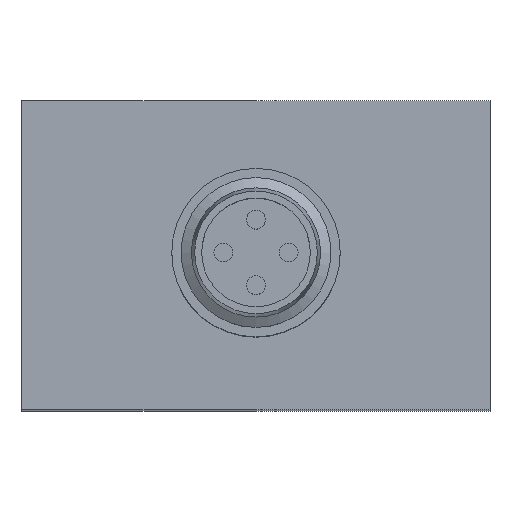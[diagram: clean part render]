
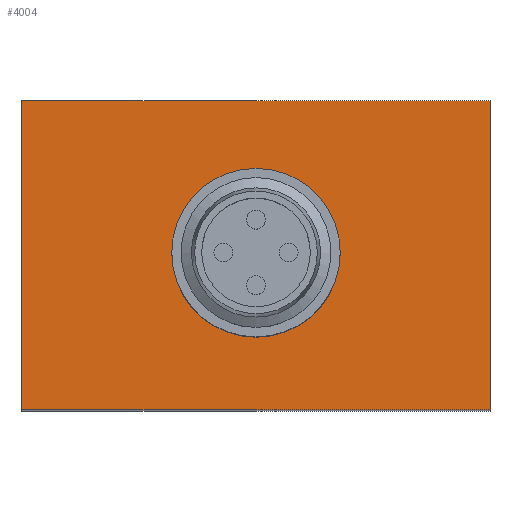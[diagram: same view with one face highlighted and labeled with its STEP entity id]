
A CAD part, top view. The second image highlights one B-rep face of the part: STEP entity #4004.
In plain terms, the highlighted planar face has unit normal (0, 0, 1).
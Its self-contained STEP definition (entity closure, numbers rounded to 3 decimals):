
#286=FACE_BOUND('',#970,.T.);
#361=PLANE('',#4451);
#713=FACE_OUTER_BOUND('',#969,.T.);
#969=EDGE_LOOP('',(#3071,#3072,#3073,#3074));
#970=EDGE_LOOP('',(#3075,#3076));
#1197=LINE('',#5623,#1455);
#1208=LINE('',#5649,#1466);
#1262=LINE('',#5922,#1520);
#1263=LINE('',#5924,#1521);
#1455=VECTOR('',#4715,10.);
#1466=VECTOR('',#4734,10.);
#1520=VECTOR('',#4950,10.);
#1521=VECTOR('',#4953,10.);
#1747=CIRCLE('',#4452,3.);
#1748=CIRCLE('',#4453,3.);
#1862=VERTEX_POINT('',#5620);
#1863=VERTEX_POINT('',#5622);
#1873=VERTEX_POINT('',#5646);
#1874=VERTEX_POINT('',#5648);
#1947=VERTEX_POINT('',#5943);
#1948=VERTEX_POINT('',#5944);
#2239=EDGE_CURVE('',#1862,#1863,#1197,.T.);
#2252=EDGE_CURVE('',#1873,#1874,#1208,.T.);
#2361=EDGE_CURVE('',#1874,#1862,#1262,.T.);
#2362=EDGE_CURVE('',#1873,#1863,#1263,.T.);
#2370=EDGE_CURVE('',#1947,#1948,#1747,.T.);
#2371=EDGE_CURVE('',#1948,#1947,#1748,.T.);
#3071=ORIENTED_EDGE('',*,*,#2361,.F.);
#3072=ORIENTED_EDGE('',*,*,#2252,.F.);
#3073=ORIENTED_EDGE('',*,*,#2362,.T.);
#3074=ORIENTED_EDGE('',*,*,#2239,.F.);
#3075=ORIENTED_EDGE('',*,*,#2370,.T.);
#3076=ORIENTED_EDGE('',*,*,#2371,.T.);
#4004=ADVANCED_FACE('',(#713,#286),#361,.T.);
#4451=AXIS2_PLACEMENT_3D('',#5942,#4969,#4970);
#4452=AXIS2_PLACEMENT_3D('',#5945,#4971,#4972);
#4453=AXIS2_PLACEMENT_3D('',#5946,#4973,#4974);
#4715=DIRECTION('',(0.,1.,0.));
#4734=DIRECTION('',(0.,-1.,0.));
#4950=DIRECTION('',(-1.,0.,0.));
#4953=DIRECTION('',(-1.,0.,0.));
#4969=DIRECTION('center_axis',(0.,0.,1.));
#4970=DIRECTION('ref_axis',(0.,-1.,0.));
#4971=DIRECTION('center_axis',(0.,0.,-1.));
#4972=DIRECTION('ref_axis',(0.,1.,0.));
#4973=DIRECTION('center_axis',(0.,0.,-1.));
#4974=DIRECTION('ref_axis',(0.,1.,0.));
#5620=CARTESIAN_POINT('',(-12.5,-8.25,59.5));
#5622=CARTESIAN_POINT('',(-12.5,8.25,59.5));
#5623=CARTESIAN_POINT('',(-12.5,-8.25,59.5));
#5646=CARTESIAN_POINT('',(12.5,8.25,59.5));
#5648=CARTESIAN_POINT('',(12.5,-8.25,59.5));
#5649=CARTESIAN_POINT('',(12.5,-8.25,59.5));
#5922=CARTESIAN_POINT('',(0.,-8.25,59.5));
#5924=CARTESIAN_POINT('',(0.,8.25,59.5));
#5942=CARTESIAN_POINT('Origin',(0.,8.25,59.5));
#5943=CARTESIAN_POINT('',(0.,3.,59.5));
#5944=CARTESIAN_POINT('',(0.,-3.,59.5));
#5945=CARTESIAN_POINT('Origin',(0.,0.,59.5));
#5946=CARTESIAN_POINT('Origin',(0.,0.,59.5));
